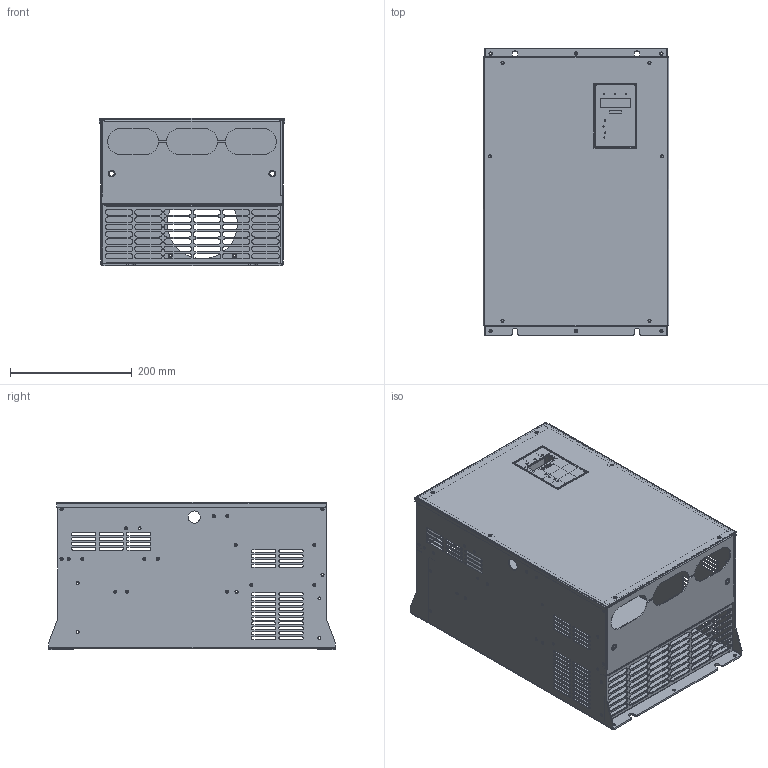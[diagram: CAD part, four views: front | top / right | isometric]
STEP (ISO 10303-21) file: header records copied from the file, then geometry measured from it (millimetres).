
FILE_DESCRIPTION((''),'2;1');
FILE_NAME('T9400-55G_ASM','2022-06-30T',('Xin'),(''),'PRO/ENGINEER BY PARAMETRIC TECHNOLOGY CORPORATION, 2010280','PRO/ENGINEER BY PARAMETRIC TECHNOLOGY CORPORATION, 2010280','');
FILE_SCHEMA(('CONFIG_CONTROL_DESIGN'));
Length unit declared in the file: millimetre
Products named in the file (1): T9400-55G_ASM
Bounding box: 304 x 470 x 241.7 mm (x, y, z)
Volume: 47361.8 mm3; surface area: 1261914 mm2
Topology: 6 solids, 7 shells, 1431 faces, 4087 edges, 2688 vertices
Faces by surface type: cylinder 650, plane 616, cone 142, bspline 15, sphere 8
Entity records: 48900 total; most frequent: CARTESIAN_POINT 9081, DIRECTION 8579, ORIENTED_EDGE 8140, EDGE_CURVE 4079, AXIS2_PLACEMENT_3D 3113, VERTEX_POINT 2688, VECTOR 2353, LINE 2353
